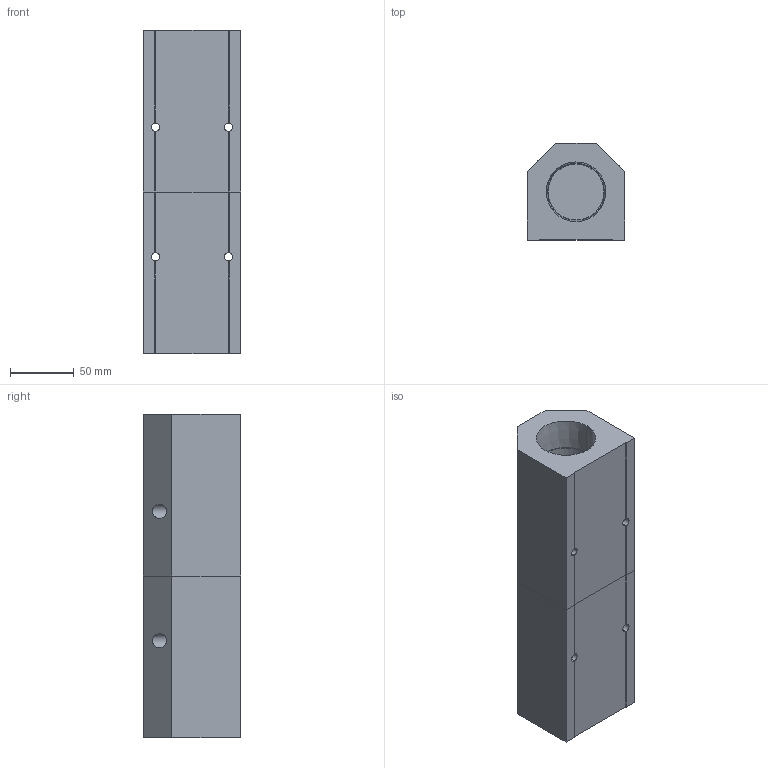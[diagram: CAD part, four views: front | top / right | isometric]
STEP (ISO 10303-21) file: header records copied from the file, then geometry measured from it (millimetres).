
FILE_DESCRIPTION (( 'STEP AP214' ), '1' );
FILE_NAME ('ALM4C-N8N24-254RB.step', '2022-02-07T09:39:36', ( '' ), ( '' ), 'SwSTEP 2.0', 'SolidWorks 2020', '' );
FILE_SCHEMA (( 'AUTOMOTIVE_DESIGN' ));
Length unit declared in the file: millimetre
Products named in the file (1): ALM4C-N8N24-254RB
Bounding box: 76.2 x 76.2 x 254 mm (x, y, z)
Volume: 921497.3 mm3; surface area: 134143.3 mm2
Topology: 2 solids, 2 shells, 333 faces, 871 edges, 578 vertices
Faces by surface type: plane 237, bspline 64, cylinder 20, cone 12
Entity records: 17662 total; most frequent: CARTESIAN_POINT 6775, ORIENTED_EDGE 1742, DIRECTION 1307, EDGE_CURVE 871, LINE 671, VECTOR 671, VERTEX_POINT 578, EDGE_LOOP 385
